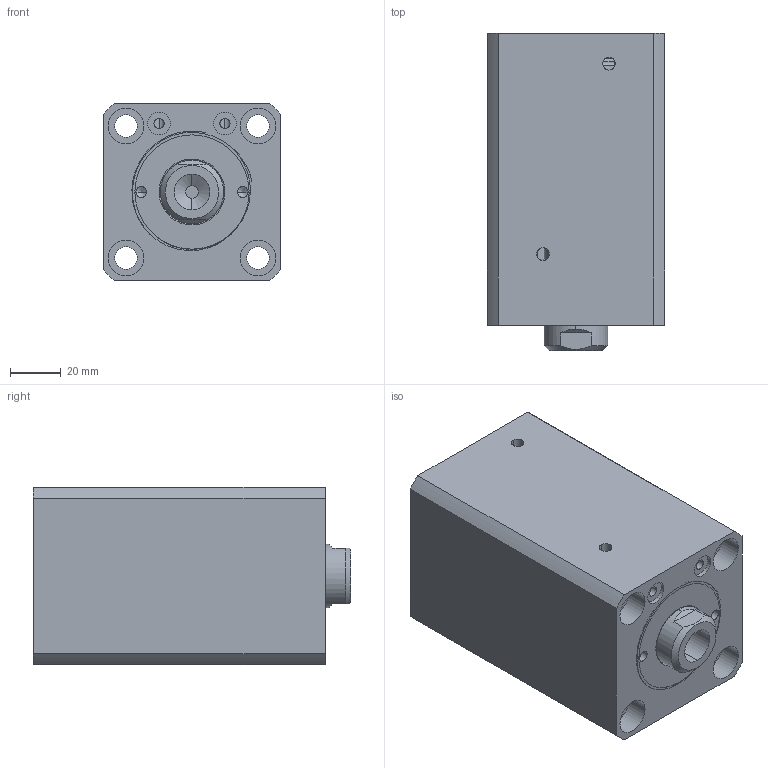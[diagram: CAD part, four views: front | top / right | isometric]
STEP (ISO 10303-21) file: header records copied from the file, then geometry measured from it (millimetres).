
FILE_DESCRIPTION (( 'STEP AP214' ), '1' );
FILE_NAME ('chtb-sdma40x60n_asm.STEP', '2018-06-06T06:19:10', ( 'Windows' ), ( 'Microsoft' ), 'SwSTEP 2.0', 'SolidWorks 2015', '' );
FILE_SCHEMA (( 'AUTOMOTIVE_DESIGN' ));
Length unit declared in the file: millimetre
Products named in the file (4): CHTB-SD40QG; CHTB-SDMA40X60NBT; CHTB-SD40X60NHSG; chtb-sdma40x60n_asm
Assembly tree (3 placements, depth 2):
  chtb-sdma40x60n_asm
    CHTB-SD40X60NHSG
    CHTB-SDMA40X60NBT
    CHTB-SD40QG
Bounding box: 70 x 125 x 70 mm (x, y, z)
Volume: 469974.3 mm3; surface area: 95902.1 mm2
Topology: 3 solids, 3 shells, 157 faces, 413 edges, 274 vertices
Faces by surface type: cylinder 84, plane 36, torus 14, bspline 14, cone 9
Entity records: 10139 total; most frequent: CARTESIAN_POINT 6157, ORIENTED_EDGE 814, DIRECTION 768, EDGE_CURVE 407, AXIS2_PLACEMENT_3D 326, VERTEX_POINT 274, EDGE_LOOP 193, CIRCLE 177
